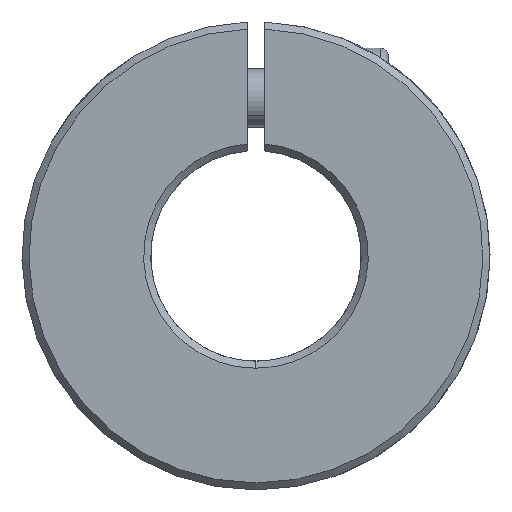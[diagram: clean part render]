
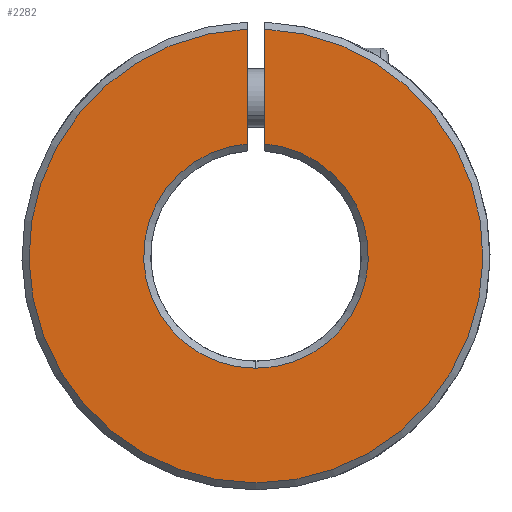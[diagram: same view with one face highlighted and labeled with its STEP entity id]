
A CAD part, front view. The second image highlights one B-rep face of the part: STEP entity #2282.
In plain terms, the highlighted planar face has unit normal (0, -1, 0).
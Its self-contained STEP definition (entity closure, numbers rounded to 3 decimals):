
#155 = EDGE_CURVE ( 'NONE', #4972, #2581, #2261, .T. ) ;
#176 = CARTESIAN_POINT ( 'NONE',  ( 0., -25., 0. ) ) ;
#337 = CARTESIAN_POINT ( 'NONE',  ( 0.75, -25., -2. ) ) ;
#502 = DIRECTION ( 'NONE',  ( 0., 0., 1. ) ) ;
#666 = CARTESIAN_POINT ( 'NONE',  ( 0., -25., 0. ) ) ;
#889 = AXIS2_PLACEMENT_3D ( 'NONE', #5220, #3552, #502 ) ;
#969 = VECTOR ( 'NONE', #1717, 1000. ) ;
#1299 = CARTESIAN_POINT ( 'NONE',  ( 0.75, -25., 19.385 ) ) ;
#1313 = CARTESIAN_POINT ( 'NONE',  ( 0.75, -25., 9.571 ) ) ;
#1440 = EDGE_CURVE ( 'NONE', #2581, #3271, #3460, .T. ) ;
#1717 = DIRECTION ( 'NONE',  ( 0., 0., -1. ) ) ;
#1870 = ORIENTED_EDGE ( 'NONE', *, *, #4090, .T. ) ;
#1923 = DIRECTION ( 'NONE',  ( 0., 1., 0. ) ) ;
#1936 = ORIENTED_EDGE ( 'NONE', *, *, #4305, .T. ) ;
#1974 = ORIENTED_EDGE ( 'NONE', *, *, #155, .T. ) ;
#2055 = CARTESIAN_POINT ( 'NONE',  ( 0., -25., 0. ) ) ;
#2190 = EDGE_CURVE ( 'NONE', #5221, #4972, #5527, .T. ) ;
#2260 = CIRCLE ( 'NONE', #889, 9.6 ) ;
#2261 = CIRCLE ( 'NONE', #2752, 19.4 ) ;
#2282 = ADVANCED_FACE ( 'NONE', ( #2368 ), #4152, .F. ) ;
#2368 = FACE_OUTER_BOUND ( 'NONE', #5147, .T. ) ;
#2511 = DIRECTION ( 'NONE',  ( 0., 0., 1. ) ) ;
#2581 = VERTEX_POINT ( 'NONE', #1299 ) ;
#2752 = AXIS2_PLACEMENT_3D ( 'NONE', #2055, #5511, #4618 ) ;
#2865 = CARTESIAN_POINT ( 'NONE',  ( 0., -25., -9.6 ) ) ;
#3271 = VERTEX_POINT ( 'NONE', #1313 ) ;
#3376 = ORIENTED_EDGE ( 'NONE', *, *, #2190, .T. ) ;
#3460 = LINE ( 'NONE', #337, #969 ) ;
#3552 = DIRECTION ( 'NONE',  ( 0., 1., 0. ) ) ;
#3568 = CIRCLE ( 'NONE', #5127, 9.6 ) ;
#3737 = DIRECTION ( 'NONE',  ( 0., 0., 1. ) ) ;
#4090 = EDGE_CURVE ( 'NONE', #5490, #5221, #3568, .T. ) ;
#4152 = PLANE ( 'NONE',  #4737 ) ;
#4223 = DIRECTION ( 'NONE',  ( 0., 1., 0. ) ) ;
#4274 = CARTESIAN_POINT ( 'NONE',  ( -0.75, -25., 9.571 ) ) ;
#4305 = EDGE_CURVE ( 'NONE', #3271, #5490, #2260, .T. ) ;
#4618 = DIRECTION ( 'NONE',  ( 0., 0., 1. ) ) ;
#4737 = AXIS2_PLACEMENT_3D ( 'NONE', #176, #1923, #5492 ) ;
#4972 = VERTEX_POINT ( 'NONE', #5377 ) ;
#5032 = CARTESIAN_POINT ( 'NONE',  ( -0.75, -25., -2. ) ) ;
#5127 = AXIS2_PLACEMENT_3D ( 'NONE', #666, #4223, #2511 ) ;
#5147 = EDGE_LOOP ( 'NONE', ( #5480, #1936, #1870, #3376, #1974 ) ) ;
#5220 = CARTESIAN_POINT ( 'NONE',  ( 0., -25., 0. ) ) ;
#5221 = VERTEX_POINT ( 'NONE', #4274 ) ;
#5248 = VECTOR ( 'NONE', #3737, 1000. ) ;
#5377 = CARTESIAN_POINT ( 'NONE',  ( -0.75, -25., 19.385 ) ) ;
#5480 = ORIENTED_EDGE ( 'NONE', *, *, #1440, .T. ) ;
#5490 = VERTEX_POINT ( 'NONE', #2865 ) ;
#5492 = DIRECTION ( 'NONE',  ( 0., 0., 1. ) ) ;
#5511 = DIRECTION ( 'NONE',  ( 0., -1., 0. ) ) ;
#5527 = LINE ( 'NONE', #5032, #5248 ) ;
